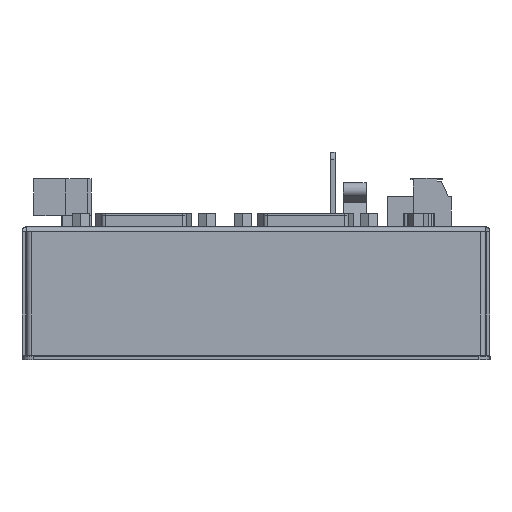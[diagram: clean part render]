
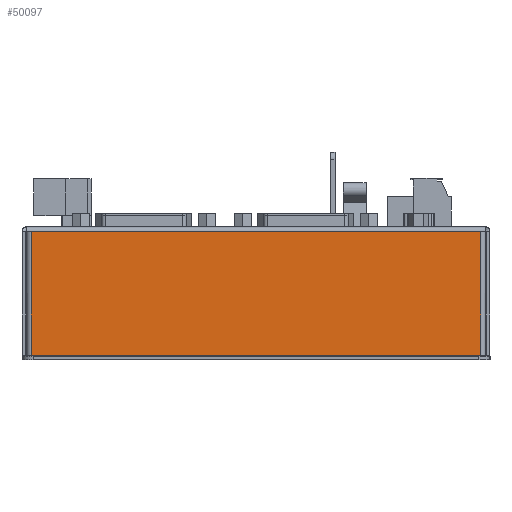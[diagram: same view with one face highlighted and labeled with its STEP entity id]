
A CAD part, left-side view. The second image highlights one B-rep face of the part: STEP entity #50097.
In plain terms, the highlighted planar face has unit normal (-1, 0, 0).
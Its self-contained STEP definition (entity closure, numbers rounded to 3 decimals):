
#795 = LINE ( 'NONE', #18623, #45124 ) ;
#1752 = CARTESIAN_POINT ( 'NONE',  ( -105.5, 0., 0. ) ) ;
#4044 = LINE ( 'NONE', #32113, #22289 ) ;
#4684 = VERTEX_POINT ( 'NONE', #50303 ) ;
#5285 = EDGE_CURVE ( 'NONE', #40758, #38706, #41371, .T. ) ;
#9646 = DIRECTION ( 'NONE',  ( 0., 0., 1. ) ) ;
#10240 = AXIS2_PLACEMENT_3D ( 'NONE', #1752, #17365, #44524 ) ;
#13044 = DIRECTION ( 'NONE',  ( 0., 1., 0. ) ) ;
#16253 = CARTESIAN_POINT ( 'NONE',  ( -105.5, -59.6, -1.2 ) ) ;
#16885 = ORIENTED_EDGE ( 'NONE', *, *, #5285, .F. ) ;
#17365 = DIRECTION ( 'NONE',  ( 1., 0., 0. ) ) ;
#18623 = CARTESIAN_POINT ( 'NONE',  ( -105.5, 59.6, -1.2 ) ) ;
#22289 = VECTOR ( 'NONE', #13044, 1000. ) ;
#26278 = EDGE_LOOP ( 'NONE', ( #40202, #16885, #28359, #32852 ) ) ;
#28359 = ORIENTED_EDGE ( 'NONE', *, *, #33734, .T. ) ;
#30698 = FACE_OUTER_BOUND ( 'NONE', #26278, .T. ) ;
#31025 = VERTEX_POINT ( 'NONE', #33416 ) ;
#31402 = VECTOR ( 'NONE', #9646, 1000. ) ;
#32113 = CARTESIAN_POINT ( 'NONE',  ( -105.5, -62., -34. ) ) ;
#32852 = ORIENTED_EDGE ( 'NONE', *, *, #42180, .F. ) ;
#33416 = CARTESIAN_POINT ( 'NONE',  ( -105.5, 59.6, -34. ) ) ;
#33734 = EDGE_CURVE ( 'NONE', #40758, #31025, #795, .T. ) ;
#35676 = DIRECTION ( 'NONE',  ( 0., -1., 0. ) ) ;
#36289 = LINE ( 'NONE', #36349, #31402 ) ;
#36349 = CARTESIAN_POINT ( 'NONE',  ( -105.5, -59.6, -34. ) ) ;
#36606 = CARTESIAN_POINT ( 'NONE',  ( -105.5, 59.6, -1.2 ) ) ;
#38706 = VERTEX_POINT ( 'NONE', #16253 ) ;
#39780 = CARTESIAN_POINT ( 'NONE',  ( -105.5, -62., -1.2 ) ) ;
#40202 = ORIENTED_EDGE ( 'NONE', *, *, #45209, .T. ) ;
#40758 = VERTEX_POINT ( 'NONE', #36606 ) ;
#41164 = PLANE ( 'NONE',  #10240 ) ;
#41371 = LINE ( 'NONE', #39780, #44987 ) ;
#42180 = EDGE_CURVE ( 'NONE', #4684, #31025, #4044, .T. ) ;
#44524 = DIRECTION ( 'NONE',  ( 0., 0., -1. ) ) ;
#44987 = VECTOR ( 'NONE', #35676, 1000. ) ;
#45124 = VECTOR ( 'NONE', #49839, 1000. ) ;
#45209 = EDGE_CURVE ( 'NONE', #4684, #38706, #36289, .T. ) ;
#49839 = DIRECTION ( 'NONE',  ( 0., 0., -1. ) ) ;
#50097 = ADVANCED_FACE ( 'NONE', ( #30698 ), #41164, .F. ) ;
#50303 = CARTESIAN_POINT ( 'NONE',  ( -105.5, -59.6, -34. ) ) ;
